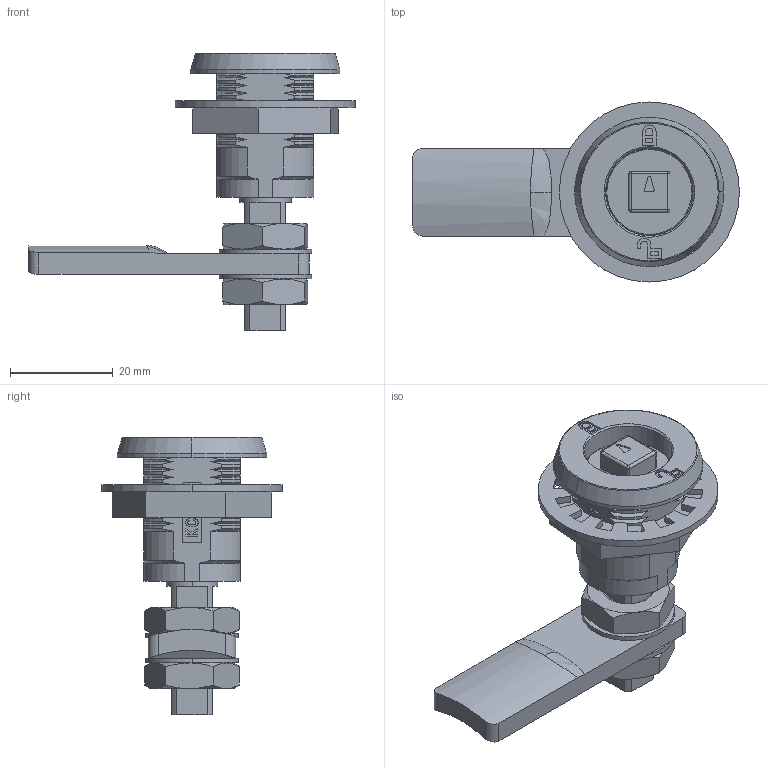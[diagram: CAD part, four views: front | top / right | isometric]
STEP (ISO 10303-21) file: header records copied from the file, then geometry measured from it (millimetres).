
FILE_DESCRIPTION (( 'STEP AP214' ), '1' );
FILE_NAME ('15-10-05 KC-141-SQ ASSY.STEP', '2016-12-16T07:00:04', ( '' ), ( '' ), 'SwSTEP 2.0', 'SolidWorks 2011', '' );
FILE_SCHEMA (( 'AUTOMOTIVE_DESIGN' ));
Length unit declared in the file: millimetre
Products named in the file (1): 15-10-05 KC-141-SQ ASSY
Bounding box: 63.5 x 35 x 54 mm (x, y, z)
Surface area: 15057.9 mm2 (no closed solid volume)
Topology: 0 solids, 14 shells, 1634 faces, 4315 edges, 2670 vertices
Faces by surface type: plane 1238, cylinder 246, cone 135, bspline 15
Entity records: 69591 total; most frequent: CARTESIAN_POINT 14823, ORIENTED_EDGE 8531, DIRECTION 6271, EDGE_CURVE 4309, VERTEX_POINT 2670, AXIS2_PLACEMENT_3D 2200, VECTOR 1871, LINE 1871
